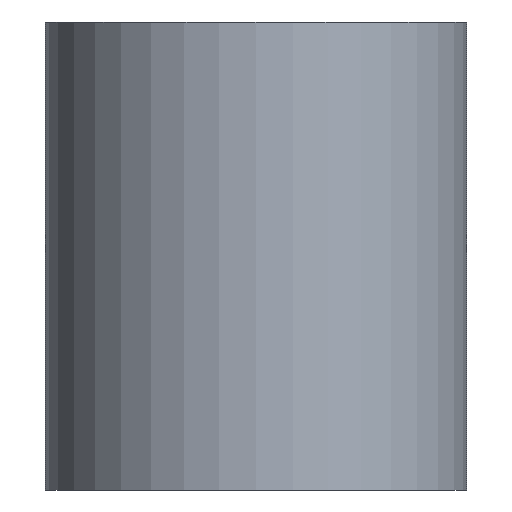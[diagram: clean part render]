
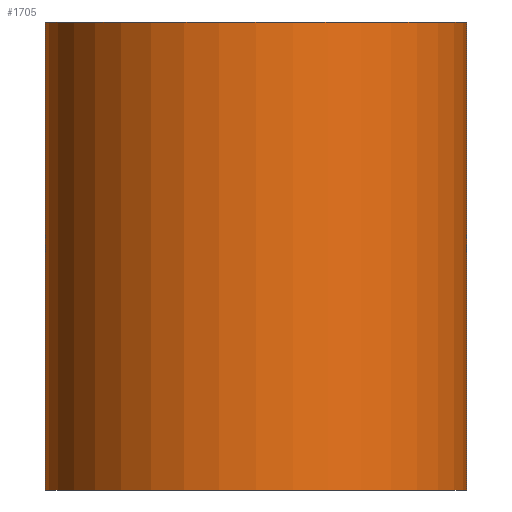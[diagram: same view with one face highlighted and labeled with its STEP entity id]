
A CAD part, left-side view. The second image highlights one B-rep face of the part: STEP entity #1705.
In plain terms, the highlighted cylindrical face has radius 3.6 mm (diameter 7.2 mm), a partial arc.
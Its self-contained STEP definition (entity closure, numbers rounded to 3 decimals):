
#146=LINE('',#2985,#250);
#147=LINE('',#2986,#251);
#250=VECTOR('',#2466,1000.);
#251=VECTOR('',#2467,1000.);
#627=ORIENTED_EDGE('',*,*,#939,.F.);
#628=ORIENTED_EDGE('',*,*,#940,.F.);
#629=ORIENTED_EDGE('',*,*,#902,.T.);
#630=ORIENTED_EDGE('',*,*,#941,.T.);
#902=EDGE_CURVE('',#1080,#1081,#1218,.T.);
#939=EDGE_CURVE('',#1117,#1118,#1251,.T.);
#940=EDGE_CURVE('',#1080,#1117,#146,.T.);
#941=EDGE_CURVE('',#1081,#1118,#147,.T.);
#1080=VERTEX_POINT('',#2888);
#1081=VERTEX_POINT('',#2889);
#1117=VERTEX_POINT('',#2983);
#1118=VERTEX_POINT('',#2984);
#1218=CIRCLE('',#1885,3.6);
#1251=CIRCLE('',#1939,3.6);
#1377=EDGE_LOOP('',(#627,#628,#629,#630));
#1523=FACE_BOUND('',#1377,.T.);
#1610=CYLINDRICAL_SURFACE('',#1938,3.6);
#1705=ADVANCED_FACE('',(#1523),#1610,.T.);
#1885=AXIS2_PLACEMENT_3D('',#2887,#2352,#2353);
#1938=AXIS2_PLACEMENT_3D('',#2981,#2462,#2463);
#1939=AXIS2_PLACEMENT_3D('',#2982,#2464,#2465);
#2352=DIRECTION('',(0.,0.,-1.));
#2353=DIRECTION('',(1.,0.,0.));
#2462=DIRECTION('',(0.,0.,-1.));
#2463=DIRECTION('',(-1.,0.,0.));
#2464=DIRECTION('',(0.,0.,-1.));
#2465=DIRECTION('',(1.,0.,0.));
#2466=DIRECTION('',(0.,0.,-1.));
#2467=DIRECTION('',(0.,0.,-1.));
#2887=CARTESIAN_POINT('',(-16.,0.,8.));
#2888=CARTESIAN_POINT('',(-16.,-3.6,8.));
#2889=CARTESIAN_POINT('',(-16.,3.6,8.));
#2981=CARTESIAN_POINT('',(-16.,0.,8.));
#2982=CARTESIAN_POINT('',(-16.,0.,0.));
#2983=CARTESIAN_POINT('',(-16.,-3.6,0.));
#2984=CARTESIAN_POINT('',(-16.,3.6,0.));
#2985=CARTESIAN_POINT('',(-16.,-3.6,8.));
#2986=CARTESIAN_POINT('',(-16.,3.6,8.));
